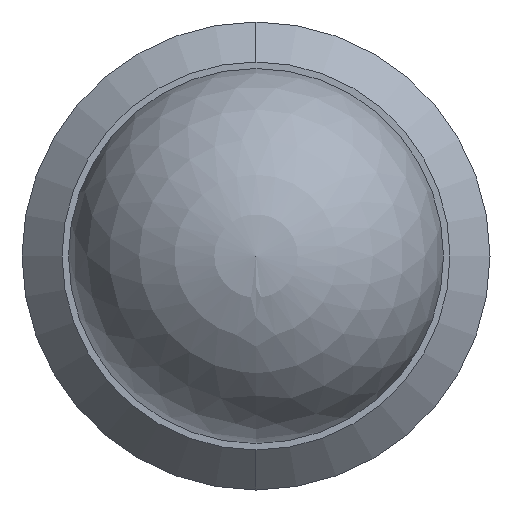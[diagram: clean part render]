
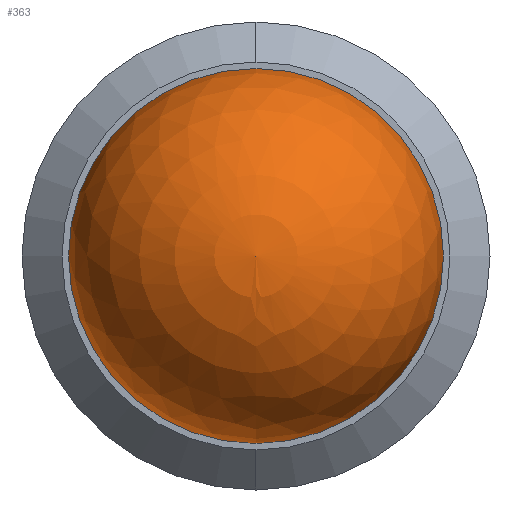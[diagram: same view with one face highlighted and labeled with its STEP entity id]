
A CAD part, left-side view. The second image highlights one B-rep face of the part: STEP entity #363.
In plain terms, the highlighted spherical face has radius 1.191 mm.
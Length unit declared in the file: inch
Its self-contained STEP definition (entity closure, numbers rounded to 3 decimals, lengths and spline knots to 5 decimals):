
#16 = AXIS2_PLACEMENT_3D ( 'NONE', #321, #547, #473 ) ;
#85 = EDGE_CURVE ( 'NONE', #396, #495, #89, .T. ) ;
#89 = CIRCLE ( 'NONE', #361, 0.04688 ) ;
#95 = CARTESIAN_POINT ( 'NONE',  ( 0., 0., 0. ) ) ;
#154 = DIRECTION ( 'NONE',  ( 0., 0., -1. ) ) ;
#166 = EDGE_CURVE ( 'NONE', #396, #495, #447, .T. ) ;
#213 = CARTESIAN_POINT ( 'NONE',  ( 0., 0.04688, 0. ) ) ;
#214 = ORIENTED_EDGE ( 'NONE', *, *, #166, .F. ) ;
#321 = CARTESIAN_POINT ( 'NONE',  ( 0., 0., 0. ) ) ;
#344 = AXIS2_PLACEMENT_3D ( 'NONE', #472, #535, #154 ) ;
#361 = AXIS2_PLACEMENT_3D ( 'NONE', #95, #455, #384 ) ;
#363 = ADVANCED_FACE ( 'NONE', ( #544 ), #430, .T. ) ;
#368 = CARTESIAN_POINT ( 'NONE',  ( 0., -0.04688, 0. ) ) ;
#384 = DIRECTION ( 'NONE',  ( 0., 0., 1. ) ) ;
#396 = VERTEX_POINT ( 'NONE', #213 ) ;
#430 = SPHERICAL_SURFACE ( 'NONE', #344, 0.04688 ) ;
#447 = CIRCLE ( 'NONE', #16, 0.04688 ) ;
#455 = DIRECTION ( 'NONE',  ( -1., 0., 0. ) ) ;
#472 = CARTESIAN_POINT ( 'NONE',  ( 0., 0., 0. ) ) ;
#473 = DIRECTION ( 'NONE',  ( 0., 0., -1. ) ) ;
#495 = VERTEX_POINT ( 'NONE', #368 ) ;
#501 = ORIENTED_EDGE ( 'NONE', *, *, #85, .T. ) ;
#509 = EDGE_LOOP ( 'NONE', ( #214, #501 ) ) ;
#535 = DIRECTION ( 'NONE',  ( 1., 0., 0. ) ) ;
#544 = FACE_OUTER_BOUND ( 'NONE', #509, .T. ) ;
#547 = DIRECTION ( 'NONE',  ( 1., 0., 0. ) ) ;
